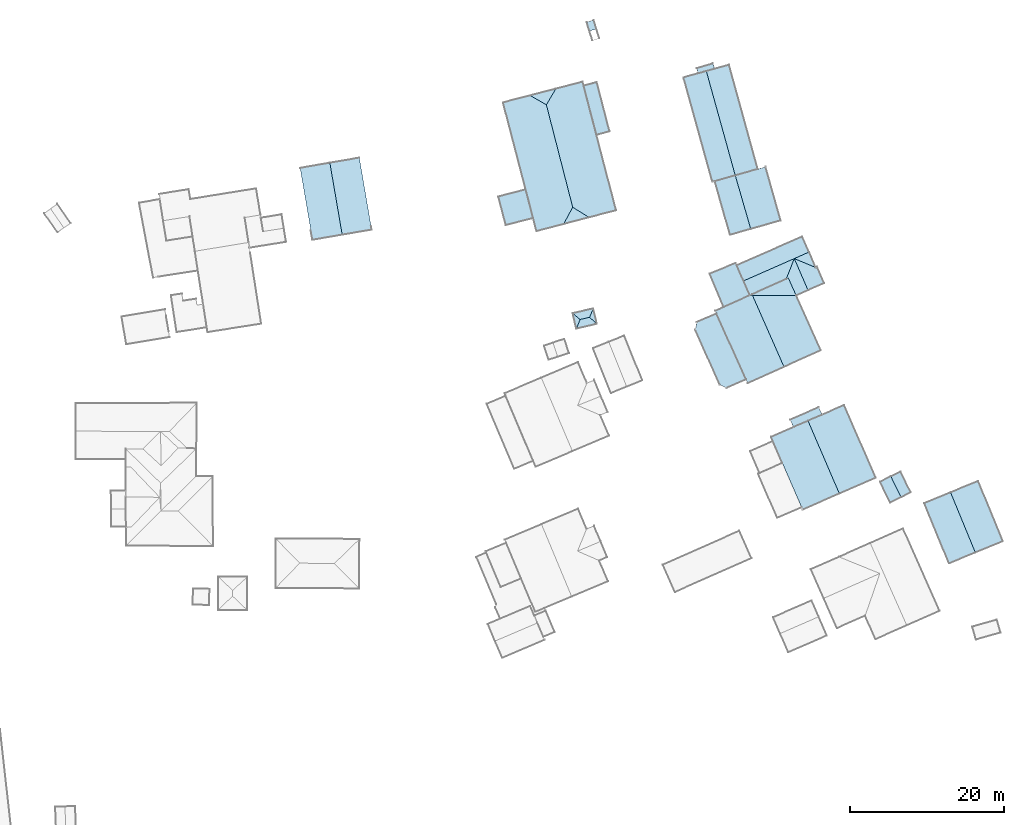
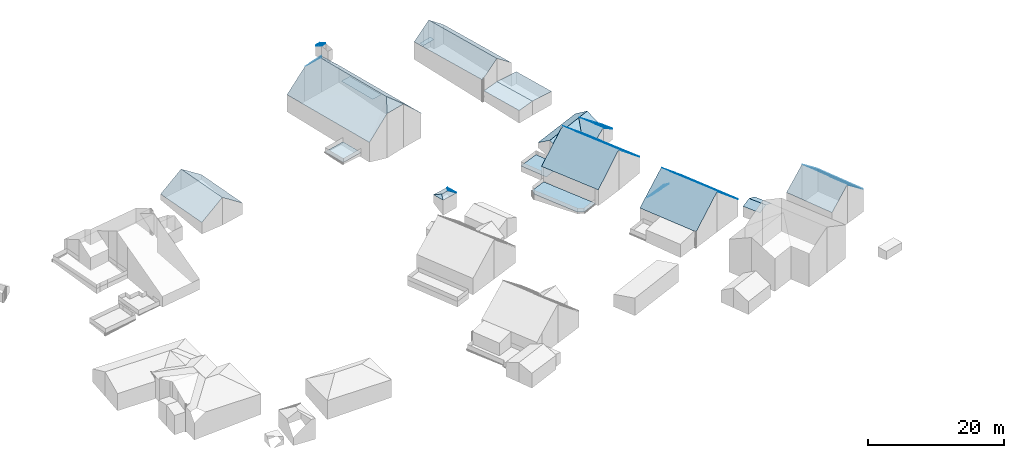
# Not in any storey, part 56 of 57: 35 roofs.
"""IFC2X3 building model written with IfcOpenShell, lengths in metres."""

from ifc_helpers import new_model, entity, si_unit, converted_unit, origin, place, context, subcontext, project, spatial, face_set, surface_model, element, save


model = new_model("IFC2X3")

# Units and contexts
model_context = context("Model", 3, precision=1e-05, world=origin())
body_context = subcontext(model_context, "Body", "Model", "MODEL_VIEW")
ifc_project = project(units=[converted_unit("PLANEANGLEUNIT", "DEGREE", entity("IfcRatioMeasure", 0.0174532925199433), si_unit("PLANEANGLEUNIT", "RADIAN"), dimensions=[0, 0, 0, 0, 0, 0, 0]), si_unit("AREAUNIT", "SQUARE_METRE"), si_unit("LENGTHUNIT", "METRE")], contexts=[model_context])

# Site, building
site_placement = place(None, origin())
site = spatial("IfcSite", under=ifc_project, at=site_placement, Name="_site", CompositionType="ELEMENT")
building_1_placement = place(site_placement, origin())
building_1 = spatial("IfcBuilding", under=site, at=building_1_placement, Name="_building", CompositionType="ELEMENT")

# Roofs
roof_1_placement = place(building_1_placement, origin())
element("IfcRoof", 1, at=roof_1_placement, inside=building_1, Name="Roof", ShapeType="NOTDEFINED", context=body_context, shape_type="SurfaceModel", body=[
    surface_model("IfcFaceBasedSurfaceModel", [(259.12, 206.471, 222.97), (255.73, 205.07, 220.02), (258.93, 197.279, 220.02), (262.33, 198.68, 222.97)], [face_set([[[0, 1, 2, 3]]])]),
])
roof_2_placement = place(building_1_placement, origin())
element("IfcRoof", 2, at=roof_2_placement, inside=building_1, Name="Roof", ShapeType="NOTDEFINED", context=body_context, shape_type="SurfaceModel", body=[
    surface_model("IfcFaceBasedSurfaceModel", [(262.33, 198.68, 222.97), (265.91, 200.16, 220.02), (262.71, 207.939, 220.02), (259.12, 206.471, 222.97)], [face_set([[[0, 1, 2, 3]]])]),
])

# Building
building_2_placement = place(site_placement, origin())
building_2 = spatial("IfcBuilding", under=site, at=building_2_placement, Name="_building", CompositionType="ELEMENT")

# Roofs
roof_3_placement = place(building_2_placement, origin())
element("IfcRoof", 3, at=roof_3_placement, inside=building_2, Name="Roof", ShapeType="NOTDEFINED", context=body_context, shape_type="SurfaceModel", body=[
    surface_model("IfcFaceBasedSurfaceModel", [(229.751, 230.478, 216.47), (233.13, 232.0, 216.47), (232.31, 233.869, 216.47), (231.43, 235.881, 216.47), (231.31, 236.18, 216.486), (227.93, 234.789, 216.486)], [face_set([[[0, 1, 2, 3, 4, 5]]])]),
])
roof_4_placement = place(building_2_placement, origin())
element("IfcRoof", 4, at=roof_4_placement, inside=building_2, Name="Roof", ShapeType="NOTDEFINED", context=body_context, shape_type="SurfaceModel", body=[
    surface_model("IfcFaceBasedSurfaceModel", [(232.31, 233.869, 220.08), (233.13, 232.0, 218.62), (233.41, 232.119, 218.639), (237.83, 234.109, 218.95), (238.88, 236.76, 220.088)], [face_set([[[0, 1, 2, 3, 4]]])]),
])
roof_5_placement = place(building_2_placement, origin())
element("IfcRoof", 5, at=roof_5_placement, inside=building_2, Name="Roof", ShapeType="NOTDEFINED", context=body_context, shape_type="SurfaceModel", body=[
    surface_model("IfcFaceBasedSurfaceModel", [(238.88, 236.76, 220.09), (240.66, 232.66, 220.11), (242.75, 233.57, 218.67), (241.83, 235.67, 218.61), (241.67, 235.6, 218.7)], [face_set([[[0, 1, 2, 3, 4]]])]),
])
roof_6_placement = place(building_2_placement, origin())
element("IfcRoof", 6, at=roof_6_placement, inside=building_2, Name="Roof", ShapeType="NOTDEFINED", context=body_context, shape_type="SurfaceModel", body=[
    surface_model("IfcFaceBasedSurfaceModel", [(239.12, 231.98, 219.06), (238.11, 234.24, 219.06), (237.83, 234.109, 219.314), (233.41, 232.119, 223.3), (233.463, 231.999, 223.301)], [face_set([[[0, 1, 2, 3, 4]]])]),
])
roof_7_placement = place(building_2_placement, origin())
element("IfcRoof", 7, at=roof_7_placement, inside=building_2, Name="Roof", ShapeType="NOTDEFINED", context=body_context, shape_type="SurfaceModel", body=[
    surface_model("IfcFaceBasedSurfaceModel", [(239.12, 231.98, 219.06), (240.66, 232.66, 220.11), (238.88, 236.76, 220.09), (237.83, 234.109, 218.95), (238.11, 234.24, 219.06)], [face_set([[[0, 1, 2, 3, 4]]])]),
])
roof_8_placement = place(building_2_placement, origin())
element("IfcRoof", 8, at=roof_8_placement, inside=building_2, Name="Roof", ShapeType="NOTDEFINED", context=body_context, shape_type="SurfaceModel", body=[
    surface_model("IfcFaceBasedSurfaceModel", [(241.67, 235.6, 218.7), (240.8, 237.609, 220.09), (238.88, 236.76, 220.088)], [face_set([[[0, 1, 2]]])]),
])
roof_9_placement = place(building_2_placement, origin())
element("IfcRoof", 9, at=roof_9_placement, inside=building_2, Name="Roof", ShapeType="NOTDEFINED", context=body_context, shape_type="SurfaceModel", body=[
    surface_model("IfcFaceBasedSurfaceModel", [(238.88, 236.76, 220.088), (240.8, 237.609, 220.09), (239.92, 239.6, 218.7), (231.43, 235.881, 218.74), (232.31, 233.869, 220.08)], [face_set([[[0, 1, 2, 3, 4]]])]),
])

# Building
building_3_placement = place(site_placement, origin())
building_3 = spatial("IfcBuilding", under=site, at=building_3_placement, Name="_building", CompositionType="ELEMENT")

# Roofs
roof_10_placement = place(building_3_placement, origin())
element("IfcRoof", 10, at=roof_10_placement, inside=building_3, Name="Roof", ShapeType="NOTDEFINED", context=body_context, shape_type="SurfaceModel", body=[
    surface_model("IfcFaceBasedSurfaceModel", [(244.72, 206.311, 223.29), (249.44, 208.359, 218.99), (245.35, 217.779, 218.99), (242.49, 216.529, 221.58), (240.66, 215.74, 223.23)], [face_set([[[0, 1, 2, 3, 4]]])]),
])
roof_11_placement = place(building_3_placement, origin())
element("IfcRoof", 11, at=roof_11_placement, inside=building_3, Name="Roof", ShapeType="NOTDEFINED", context=body_context, shape_type="SurfaceModel", body=[
    surface_model("IfcFaceBasedSurfaceModel", [(238.78, 214.93, 219.6), (240.66, 215.74, 219.438), (242.49, 216.529, 219.28), (242.06, 217.5, 218.59), (238.36, 215.891, 218.62)], [face_set([[[0, 1, 2, 3, 4]]])]),
])
roof_12_placement = place(building_3_placement, origin())
element("IfcRoof", 12, at=roof_12_placement, inside=building_3, Name="Roof", ShapeType="NOTDEFINED", context=body_context, shape_type="SurfaceModel", body=[
    surface_model("IfcFaceBasedSurfaceModel", [(239.83, 204.539, 218.99), (239.96, 204.24, 218.99), (244.72, 206.311, 223.29), (240.66, 215.74, 223.23), (238.78, 214.93, 221.57), (235.87, 213.66, 218.99), (237.34, 210.27, 218.99)], [face_set([[[0, 1, 2, 3, 4, 5, 6]]])]),
])

# Building
building_4_placement = place(site_placement, origin())
building_4 = spatial("IfcBuilding", under=site, at=building_4_placement, Name="_building", CompositionType="ELEMENT")

# Roofs
roof_13_placement = place(building_4_placement, origin())
element("IfcRoof", 13, at=roof_13_placement, inside=building_4, Name="Roof", ShapeType="NOTDEFINED", context=body_context, shape_type="SurfaceModel", body=[
    surface_model("IfcFaceBasedSurfaceModel", [(252.71, 205.85, 218.37), (253.98, 206.471, 217.85), (252.65, 209.16, 217.85), (251.39, 208.539, 218.37)], [face_set([[[0, 1, 2, 3]]])]),
])
roof_14_placement = place(building_4_placement, origin())
element("IfcRoof", 14, at=roof_14_placement, inside=building_4, Name="Roof", ShapeType="NOTDEFINED", context=body_context, shape_type="SurfaceModel", body=[
    surface_model("IfcFaceBasedSurfaceModel", [(251.39, 208.539, 218.37), (249.99, 207.85, 217.85), (251.32, 205.16, 217.85), (252.71, 205.85, 218.37)], [face_set([[[0, 1, 2, 3]]])]),
])

# Building
building_5_placement = place(site_placement, origin())
building_5 = spatial("IfcBuilding", under=site, at=building_5_placement, Name="_building", CompositionType="ELEMENT")

# Roofs
roof_15_placement = place(building_5_placement, origin())
element("IfcRoof", 15, at=roof_15_placement, inside=building_5, Name="Roof", ShapeType="NOTDEFINED", context=body_context, shape_type="SurfaceModel", body=[
    surface_model("IfcFaceBasedSurfaceModel", [(233.463, 231.999, 223.301), (237.55, 222.73, 223.34), (242.32, 224.869, 219.06), (239.12, 231.98, 219.06)], [face_set([[[0, 1, 2, 3]]])]),
])
roof_16_placement = place(building_5_placement, origin())
element("IfcRoof", 16, at=roof_16_placement, inside=building_5, Name="Roof", ShapeType="NOTDEFINED", context=body_context, shape_type="SurfaceModel", body=[
    surface_model("IfcFaceBasedSurfaceModel", [(232.63, 221.119, 216.465), (228.81, 229.631, 216.465), (226.27, 228.539, 216.465), (226.06, 227.539, 216.465), (229.24, 220.42, 216.465), (230.1, 219.99, 216.465)], [face_set([[[0, 1, 2, 3, 4, 5]]])]),
])
roof_17_placement = place(building_5_placement, origin())
element("IfcRoof", 17, at=roof_17_placement, inside=building_5, Name="Roof", ShapeType="NOTDEFINED", context=body_context, shape_type="SurfaceModel", body=[
    surface_model("IfcFaceBasedSurfaceModel", [(233.463, 231.999, 223.301), (233.13, 232.0, 223.06), (229.751, 230.478, 220.043), (228.65, 229.98, 219.06), (228.81, 229.631, 219.06), (232.63, 221.119, 219.06), (232.86, 220.609, 219.06), (237.55, 222.73, 223.34)], [face_set([[[0, 1, 2, 3, 4, 5, 6, 7]]])]),
])

# Building
building_6_placement = place(site_placement, origin())
building_6 = spatial("IfcBuilding", under=site, at=building_6_placement, Name="_building", CompositionType="ELEMENT")

# Roofs
roof_18_placement = place(building_6_placement, origin())
element("IfcRoof", 18, at=roof_18_placement, inside=building_6, Name="Roof", ShapeType="NOTDEFINED", context=body_context, shape_type="SurfaceModel", body=[
    surface_model("IfcFaceBasedSurfaceModel", [(180.33, 239.84, 224.44), (184.15, 240.49, 221.71), (182.55, 249.811, 221.71), (178.73, 249.15, 224.44)], [face_set([[[0, 1, 2, 3]]])]),
])
roof_19_placement = place(building_6_placement, origin())
element("IfcRoof", 19, at=roof_19_placement, inside=building_6, Name="Roof", ShapeType="NOTDEFINED", context=body_context, shape_type="SurfaceModel", body=[
    surface_model("IfcFaceBasedSurfaceModel", [(178.73, 249.15, 224.44), (174.88, 248.49, 221.71), (176.48, 239.17, 221.71), (180.33, 239.84, 224.44)], [face_set([[[0, 1, 2, 3]]])]),
])

# Building
building_7_placement = place(site_placement, origin())
building_7 = spatial("IfcBuilding", under=site, at=building_7_placement, Name="_building", CompositionType="ELEMENT")

# Roofs
roof_20_placement = place(building_7_placement, origin())
element("IfcRoof", 20, at=roof_20_placement, inside=building_7, Name="Roof", ShapeType="NOTDEFINED", context=body_context, shape_type="SurfaceModel", body=[
    surface_model("IfcFaceBasedSurfaceModel", [(212.36, 229.16, 220.91), (212.85, 230.289, 220.64), (210.19, 229.67, 220.66), (211.14, 228.869, 220.91)], [face_set([[[0, 1, 2, 3]]])]),
])
roof_21_placement = place(building_7_placement, origin())
element("IfcRoof", 21, at=roof_21_placement, inside=building_7, Name="Roof", ShapeType="NOTDEFINED", context=body_context, shape_type="SurfaceModel", body=[
    surface_model("IfcFaceBasedSurfaceModel", [(211.14, 228.869, 220.91), (210.19, 229.67, 220.66), (210.66, 227.67, 220.72)], [face_set([[[0, 1, 2]]])]),
])
roof_22_placement = place(building_7_placement, origin())
element("IfcRoof", 22, at=roof_22_placement, inside=building_7, Name="Roof", ShapeType="NOTDEFINED", context=body_context, shape_type="SurfaceModel", body=[
    surface_model("IfcFaceBasedSurfaceModel", [(213.32, 228.301, 220.7), (212.85, 230.289, 220.64), (212.36, 229.16, 220.91)], [face_set([[[0, 1, 2]]])]),
])
roof_23_placement = place(building_7_placement, origin())
element("IfcRoof", 23, at=roof_23_placement, inside=building_7, Name="Roof", ShapeType="NOTDEFINED", context=body_context, shape_type="SurfaceModel", body=[
    surface_model("IfcFaceBasedSurfaceModel", [(210.66, 227.67, 220.72), (213.32, 228.301, 220.7), (212.36, 229.16, 220.91), (211.14, 228.869, 220.91)], [face_set([[[0, 1, 2, 3]]])]),
])

# Building
building_8_placement = place(site_placement, origin())
building_8 = spatial("IfcBuilding", under=site, at=building_8_placement, Name="_building", CompositionType="ELEMENT")

# Roofs
roof_24_placement = place(building_8_placement, origin())
element("IfcRoof", 24, at=roof_24_placement, inside=building_8, Name="Roof", ShapeType="NOTDEFINED", context=body_context, shape_type="SurfaceModel", body=[
    surface_model("IfcFaceBasedSurfaceModel", [(231.237, 247.52, 226.83), (234.16, 248.35, 224.55), (230.43, 261.85, 224.5), (228.56, 261.33, 225.99), (227.49, 261.03, 226.83)], [face_set([[[0, 1, 2, 3, 4]]])]),
])
roof_25_placement = place(building_8_placement, origin())
element("IfcRoof", 25, at=roof_25_placement, inside=building_8, Name="Roof", ShapeType="NOTDEFINED", context=body_context, shape_type="SurfaceModel", body=[
    surface_model("IfcFaceBasedSurfaceModel", [(233.24, 240.59, 222.69), (237.13, 241.689, 222.4), (235.16, 248.631, 222.43), (234.16, 248.35, 222.49), (231.237, 247.52, 222.69)], [face_set([[[0, 1, 2, 3, 4]]])]),
])
roof_26_placement = place(building_8_placement, origin())
element("IfcRoof", 26, at=roof_26_placement, inside=building_8, Name="Roof", ShapeType="NOTDEFINED", context=body_context, shape_type="SurfaceModel", body=[
    surface_model("IfcFaceBasedSurfaceModel", [(231.237, 247.52, 222.69), (228.6, 246.77, 222.42), (230.57, 239.83, 222.4), (233.24, 240.59, 222.69)], [face_set([[[0, 1, 2, 3]]])]),
])
roof_27_placement = place(building_8_placement, origin())
element("IfcRoof", 27, at=roof_27_placement, inside=building_8, Name="Roof", ShapeType="NOTDEFINED", context=body_context, shape_type="SurfaceModel", body=[
    surface_model("IfcFaceBasedSurfaceModel", [(226.44, 260.74, 222.79), (227.49, 261.03, 222.79), (228.56, 261.33, 222.79), (228.35, 262.029, 222.9), (226.24, 261.4, 222.9)], [face_set([[[0, 1, 2, 3, 4]]])]),
])
roof_28_placement = place(building_8_placement, origin())
element("IfcRoof", 28, at=roof_28_placement, inside=building_8, Name="Roof", ShapeType="NOTDEFINED", context=body_context, shape_type="SurfaceModel", body=[
    surface_model("IfcFaceBasedSurfaceModel", [(227.49, 261.03, 226.83), (226.44, 260.74, 225.99), (224.54, 260.211, 224.46), (228.3, 246.68, 224.52), (228.6, 246.77, 224.76), (231.237, 247.52, 226.83)], [face_set([[[0, 1, 2, 3, 4, 5]]])]),
])

# Building
building_9_placement = place(site_placement, origin())
building_9 = spatial("IfcBuilding", under=site, at=building_9_placement, Name="_building", CompositionType="ELEMENT")

# Roof
roof_29_placement = place(building_9_placement, origin())
element("IfcRoof", 29, at=roof_29_placement, inside=building_9, Name="Roof", ShapeType="NOTDEFINED", context=body_context, shape_type="SurfaceModel", body=[
    surface_model("IfcFaceBasedSurfaceModel", [(213.25, 266.5, 224.32), (212.89, 267.66, 223.81), (212.0, 267.381, 223.84), (212.36, 266.23, 224.33)], [face_set([[[0, 1, 2, 3]]])]),
])

# Building
building_10_placement = place(site_placement, origin())
building_10 = spatial("IfcBuilding", under=site, at=building_10_placement, Name="_building", CompositionType="ELEMENT")

# Roofs
roof_30_placement = place(building_10_placement, origin())
element("IfcRoof", 30, at=roof_30_placement, inside=building_10, Name="Roof", ShapeType="NOTDEFINED", context=body_context, shape_type="SurfaceModel", body=[
    surface_model("IfcFaceBasedSurfaceModel", [(210.18, 243.41, 229.87), (212.31, 242.09, 228.61), (215.81, 243.0, 225.21), (211.48, 259.65, 225.17), (207.99, 258.74, 228.61), (206.77, 256.68, 229.9)], [face_set([[[0, 1, 2, 3, 4, 5]]])]),
])
roof_31_placement = place(building_10_placement, origin())
element("IfcRoof", 31, at=roof_31_placement, inside=building_10, Name="Roof", ShapeType="NOTDEFINED", context=body_context, shape_type="SurfaceModel", body=[
    surface_model("IfcFaceBasedSurfaceModel", [(204.11, 245.699, 222.53), (200.57, 244.779, 222.53), (201.53, 241.08, 222.53), (205.07, 242.0, 222.53)], [face_set([[[0, 1, 2, 3]]])]),
])
roof_32_placement = place(building_10_placement, origin())
element("IfcRoof", 32, at=roof_32_placement, inside=building_10, Name="Roof", ShapeType="NOTDEFINED", context=body_context, shape_type="SurfaceModel", body=[
    surface_model("IfcFaceBasedSurfaceModel", [(213.27, 252.779, 222.59), (214.97, 253.221, 222.59), (213.31, 259.59, 222.59), (211.61, 259.15, 222.59)], [face_set([[[0, 1, 2, 3]]])]),
])
roof_33_placement = place(building_10_placement, origin())
element("IfcRoof", 33, at=roof_33_placement, inside=building_10, Name="Roof", ShapeType="NOTDEFINED", context=body_context, shape_type="SurfaceModel", body=[
    surface_model("IfcFaceBasedSurfaceModel", [(209.0, 241.221, 228.57), (212.31, 242.09, 228.61), (210.18, 243.41, 229.87)], [face_set([[[0, 1, 2]]])]),
])
roof_34_placement = place(building_10_placement, origin())
element("IfcRoof", 34, at=roof_34_placement, inside=building_10, Name="Roof", ShapeType="NOTDEFINED", context=body_context, shape_type="SurfaceModel", body=[
    surface_model("IfcFaceBasedSurfaceModel", [(207.99, 258.74, 228.61), (204.67, 257.881, 228.33), (206.77, 256.68, 229.9)], [face_set([[[0, 1, 2]]])]),
])
roof_35_placement = place(building_10_placement, origin())
element("IfcRoof", 35, at=roof_35_placement, inside=building_10, Name="Roof", ShapeType="NOTDEFINED", context=body_context, shape_type="SurfaceModel", body=[
    surface_model("IfcFaceBasedSurfaceModel", [(206.77, 256.68, 229.9), (204.67, 257.881, 228.33), (201.17, 256.971, 225.14), (205.51, 240.311, 225.18), (209.0, 241.221, 228.57), (210.18, 243.41, 229.87)], [face_set([[[0, 1, 2, 3, 4, 5]]])]),
])

save(model, "model.ifc")
